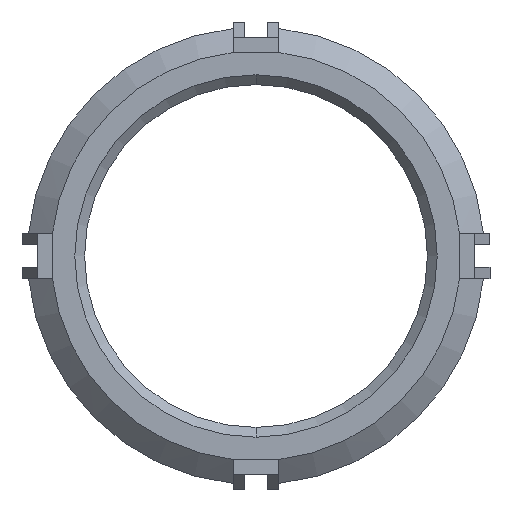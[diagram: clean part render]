
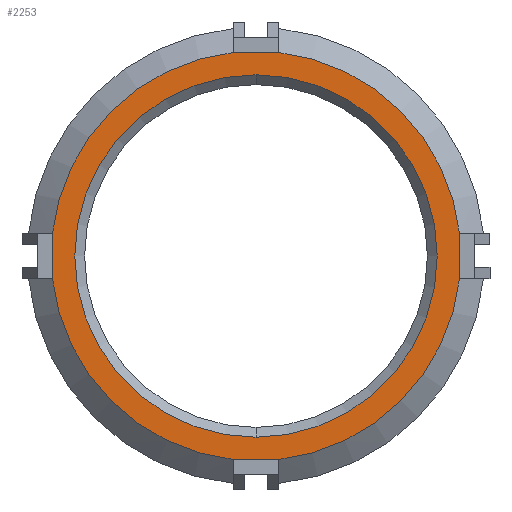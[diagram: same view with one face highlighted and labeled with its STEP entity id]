
A CAD part, front view. The second image highlights one B-rep face of the part: STEP entity #2253.
In plain terms, the highlighted planar face has unit normal (0, -1, 0).
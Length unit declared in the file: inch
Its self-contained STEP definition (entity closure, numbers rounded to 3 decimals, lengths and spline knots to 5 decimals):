
#35 = ORIENTED_EDGE ( 'NONE', *, *, #4396, .T. ) ;
#87 = EDGE_CURVE ( 'NONE', #541, #6388, #6077, .T. ) ;
#141 = AXIS2_PLACEMENT_3D ( 'NONE', #4854, #5429, #4275 ) ;
#284 = CARTESIAN_POINT ( 'NONE',  ( 0., 0., 0. ) ) ;
#458 = VERTEX_POINT ( 'NONE', #3203 ) ;
#465 = CARTESIAN_POINT ( 'NONE',  ( 0., 0., 0. ) ) ;
#541 = VERTEX_POINT ( 'NONE', #1011 ) ;
#611 = ORIENTED_EDGE ( 'NONE', *, *, #3262, .T. ) ;
#681 = CIRCLE ( 'NONE', #6389, 0.29732 ) ;
#820 = AXIS2_PLACEMENT_3D ( 'NONE', #284, #2425, #3534 ) ;
#885 = DIRECTION ( 'NONE',  ( 0., 0., -1. ) ) ;
#966 = LINE ( 'NONE', #1535, #5040 ) ;
#1011 = CARTESIAN_POINT ( 'NONE',  ( 0.0375, 0., -0.33387 ) ) ;
#1015 = DIRECTION ( 'NONE',  ( 1., 0., 0. ) ) ;
#1071 = VERTEX_POINT ( 'NONE', #4578 ) ;
#1164 = DIRECTION ( 'NONE',  ( 0., 0., -1. ) ) ;
#1249 = VECTOR ( 'NONE', #1015, 39.37008 ) ;
#1310 = DIRECTION ( 'NONE',  ( 0., -1., 0. ) ) ;
#1347 = CARTESIAN_POINT ( 'NONE',  ( 0., 0., 0. ) ) ;
#1391 = VECTOR ( 'NONE', #3237, 39.37008 ) ;
#1535 = CARTESIAN_POINT ( 'NONE',  ( -0.33387, 0., 0.0375 ) ) ;
#1637 = CARTESIAN_POINT ( 'NONE',  ( 0., 0., 0. ) ) ;
#1875 = ORIENTED_EDGE ( 'NONE', *, *, #87, .T. ) ;
#1950 = EDGE_CURVE ( 'NONE', #4722, #2788, #2412, .T. ) ;
#2019 = LINE ( 'NONE', #2622, #1249 ) ;
#2131 = ORIENTED_EDGE ( 'NONE', *, *, #4690, .F. ) ;
#2198 = CIRCLE ( 'NONE', #820, 0.29732 ) ;
#2206 = AXIS2_PLACEMENT_3D ( 'NONE', #1347, #2454, #885 ) ;
#2250 = DIRECTION ( 'NONE',  ( 0., 0., -1. ) ) ;
#2253 = ADVANCED_FACE ( 'NONE', ( #4579, #3614 ), #4083, .F. ) ;
#2257 = CARTESIAN_POINT ( 'NONE',  ( 0.0375, 0., 0.33387 ) ) ;
#2345 = LINE ( 'NONE', #5103, #4571 ) ;
#2373 = EDGE_CURVE ( 'NONE', #5986, #6388, #2608, .T. ) ;
#2376 = DIRECTION ( 'NONE',  ( -1., 0., 0. ) ) ;
#2412 = CIRCLE ( 'NONE', #141, 0.33597 ) ;
#2425 = DIRECTION ( 'NONE',  ( 0., 1., 0. ) ) ;
#2454 = DIRECTION ( 'NONE',  ( 0., -1., 0. ) ) ;
#2563 = VERTEX_POINT ( 'NONE', #2257 ) ;
#2608 = LINE ( 'NONE', #4913, #1391 ) ;
#2622 = CARTESIAN_POINT ( 'NONE',  ( 0.0375, 0., 0.33387 ) ) ;
#2634 = ORIENTED_EDGE ( 'NONE', *, *, #2373, .F. ) ;
#2679 = EDGE_CURVE ( 'NONE', #1071, #3408, #2198, .T. ) ;
#2756 = DIRECTION ( 'NONE',  ( 0., 0., 1. ) ) ;
#2788 = VERTEX_POINT ( 'NONE', #3681 ) ;
#3203 = CARTESIAN_POINT ( 'NONE',  ( -0.0375, 0., 0.33387 ) ) ;
#3237 = DIRECTION ( 'NONE',  ( 0., 0., -1. ) ) ;
#3262 = EDGE_CURVE ( 'NONE', #5986, #2563, #6659, .T. ) ;
#3408 = VERTEX_POINT ( 'NONE', #4935 ) ;
#3464 = VERTEX_POINT ( 'NONE', #5212 ) ;
#3534 = DIRECTION ( 'NONE',  ( 0., 0., 1. ) ) ;
#3593 = CARTESIAN_POINT ( 'NONE',  ( -0.33387, 0., -0.0375 ) ) ;
#3614 = FACE_OUTER_BOUND ( 'NONE', #6823, .T. ) ;
#3681 = CARTESIAN_POINT ( 'NONE',  ( -0.0375, 0., -0.33387 ) ) ;
#3695 = ORIENTED_EDGE ( 'NONE', *, *, #5738, .F. ) ;
#3879 = DIRECTION ( 'NONE',  ( 0., -1., 0. ) ) ;
#4015 = AXIS2_PLACEMENT_3D ( 'NONE', #1637, #3879, #1164 ) ;
#4083 = PLANE ( 'NONE',  #6542 ) ;
#4275 = DIRECTION ( 'NONE',  ( 0., 0., -1. ) ) ;
#4342 = CIRCLE ( 'NONE', #6843, 0.33597 ) ;
#4396 = EDGE_CURVE ( 'NONE', #3408, #1071, #681, .T. ) ;
#4397 = ORIENTED_EDGE ( 'NONE', *, *, #1950, .T. ) ;
#4495 = ORIENTED_EDGE ( 'NONE', *, *, #5077, .F. ) ;
#4502 = EDGE_CURVE ( 'NONE', #458, #3464, #4342, .T. ) ;
#4571 = VECTOR ( 'NONE', #2376, 39.37008 ) ;
#4578 = CARTESIAN_POINT ( 'NONE',  ( 0., 0., 0.29732 ) ) ;
#4579 = FACE_BOUND ( 'NONE', #5322, .T. ) ;
#4681 = DIRECTION ( 'NONE',  ( 0., 1., 0. ) ) ;
#4690 = EDGE_CURVE ( 'NONE', #458, #2563, #2019, .T. ) ;
#4722 = VERTEX_POINT ( 'NONE', #3593 ) ;
#4727 = CARTESIAN_POINT ( 'NONE',  ( 0., 0., 0. ) ) ;
#4854 = CARTESIAN_POINT ( 'NONE',  ( 0., 0., 0. ) ) ;
#4882 = ORIENTED_EDGE ( 'NONE', *, *, #2679, .T. ) ;
#4913 = CARTESIAN_POINT ( 'NONE',  ( 0.33387, 0., -0.0375 ) ) ;
#4935 = CARTESIAN_POINT ( 'NONE',  ( 0., 0., -0.29732 ) ) ;
#5040 = VECTOR ( 'NONE', #5412, 39.37008 ) ;
#5077 = EDGE_CURVE ( 'NONE', #4722, #3464, #966, .T. ) ;
#5103 = CARTESIAN_POINT ( 'NONE',  ( -0.0375, 0., -0.33387 ) ) ;
#5212 = CARTESIAN_POINT ( 'NONE',  ( -0.33387, 0., 0.0375 ) ) ;
#5322 = EDGE_LOOP ( 'NONE', ( #35, #4882 ) ) ;
#5412 = DIRECTION ( 'NONE',  ( 0., 0., 1. ) ) ;
#5429 = DIRECTION ( 'NONE',  ( 0., -1., 0. ) ) ;
#5738 = EDGE_CURVE ( 'NONE', #541, #2788, #2345, .T. ) ;
#5806 = DIRECTION ( 'NONE',  ( 0., 0., 1. ) ) ;
#5937 = DIRECTION ( 'NONE',  ( 0., 1., 0. ) ) ;
#5986 = VERTEX_POINT ( 'NONE', #7064 ) ;
#6077 = CIRCLE ( 'NONE', #4015, 0.33597 ) ;
#6388 = VERTEX_POINT ( 'NONE', #6762 ) ;
#6389 = AXIS2_PLACEMENT_3D ( 'NONE', #465, #5937, #2756 ) ;
#6437 = ORIENTED_EDGE ( 'NONE', *, *, #4502, .T. ) ;
#6542 = AXIS2_PLACEMENT_3D ( 'NONE', #4727, #4681, #5806 ) ;
#6647 = CARTESIAN_POINT ( 'NONE',  ( 0., 0., 0. ) ) ;
#6659 = CIRCLE ( 'NONE', #2206, 0.33597 ) ;
#6762 = CARTESIAN_POINT ( 'NONE',  ( 0.33387, 0., -0.0375 ) ) ;
#6823 = EDGE_LOOP ( 'NONE', ( #6437, #4495, #4397, #3695, #1875, #2634, #611, #2131 ) ) ;
#6843 = AXIS2_PLACEMENT_3D ( 'NONE', #6647, #1310, #2250 ) ;
#7064 = CARTESIAN_POINT ( 'NONE',  ( 0.33387, 0., 0.0375 ) ) ;
